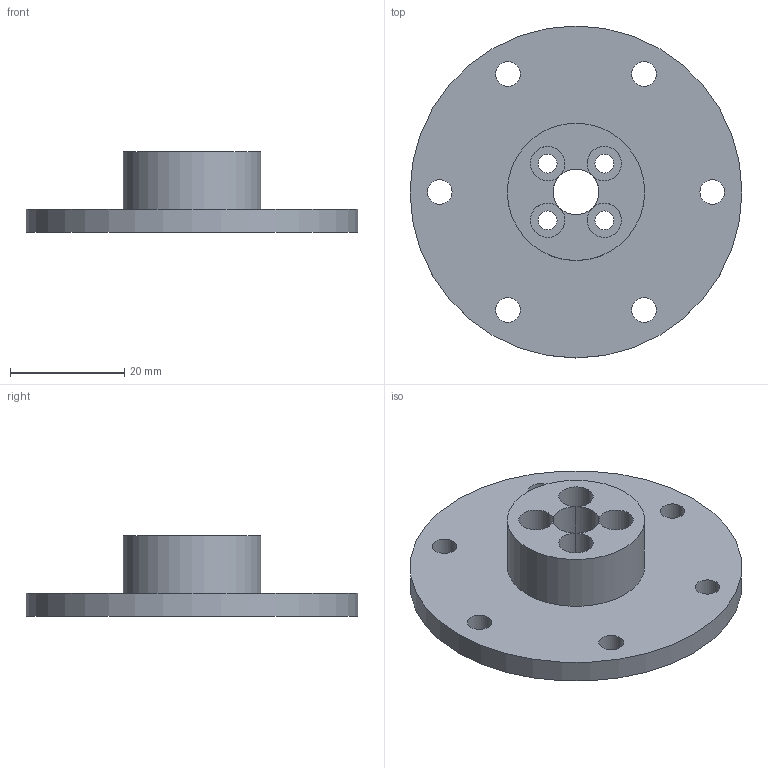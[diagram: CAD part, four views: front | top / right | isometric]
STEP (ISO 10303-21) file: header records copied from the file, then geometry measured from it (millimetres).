
FILE_DESCRIPTION(('Open CASCADE Model'),'2;1');
FILE_NAME('Open CASCADE Shape Model','2026-10-02T23:27:50',('Author'),( 'Open CASCADE'),'Open CASCADE STEP processor 7.9','Open CASCADE 7.9' ,'Unknown');
FILE_SCHEMA(('AUTOMOTIVE_DESIGN { 1 0 10303 214 1 1 1 1 }'));
Length unit declared in the file: millimetre
Products named in the file (1): Open CASCADE STEP translator 7.9 18
Bounding box: 58 x 58 x 14 mm (x, y, z)
Volume: 12772.1 mm3; surface area: 8019.7 mm2
Topology: 1 solids, 1 shells, 28 faces, 67 edges, 42 vertices
Faces by surface type: cylinder 21, plane 7
Full cylindrical faces by diameter (mm): 3.3 x4, 4.3 x6, 8 x1, 24 x1, 58 x1
Entity records: 1866 total; most frequent: CARTESIAN_POINT 487, DIRECTION 263, ORIENTED_EDGE 134, PCURVE 134, DEFINITIONAL_REPRESENTATION 134, LINE 101, VECTOR 101, AXIS2_PLACEMENT_3D 75
